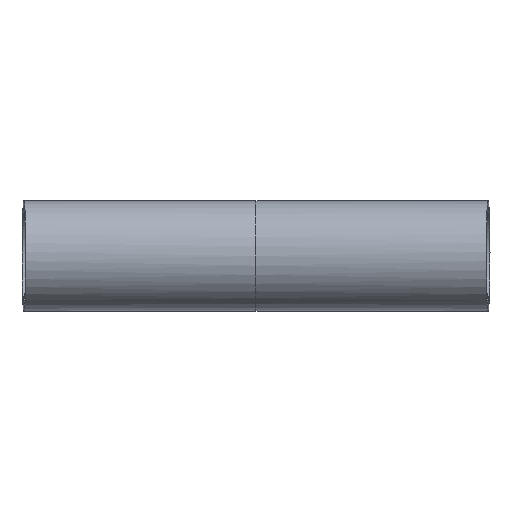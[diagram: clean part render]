
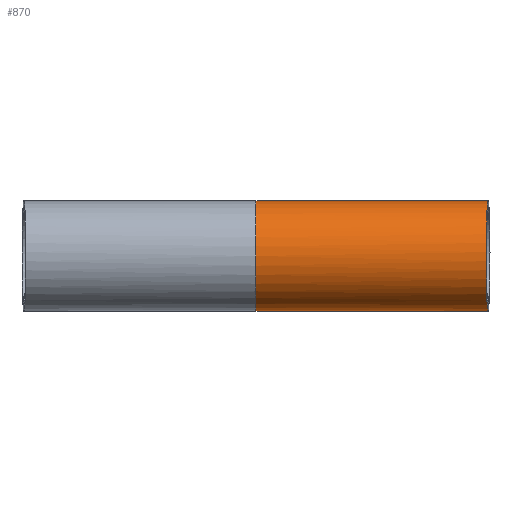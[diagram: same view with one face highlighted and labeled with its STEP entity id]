
A CAD part, front view. The second image highlights one B-rep face of the part: STEP entity #870.
In plain terms, the highlighted free-form (B-spline) face has degree [3, 1] with [7, 2] control points.
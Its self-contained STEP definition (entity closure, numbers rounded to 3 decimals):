
#12 = CARTESIAN_POINT ( 'NONE',  ( 53.053, -11.946, 7.753 ) ) ;
#16 = CARTESIAN_POINT ( 'NONE',  ( 52.965, -14.468, 1.66 ) ) ;
#24 = ORIENTED_EDGE ( 'NONE', *, *, #957, .F. ) ;
#25 = CARTESIAN_POINT ( 'NONE',  ( 52.962, -14.549, 0.836 ) ) ;
#32 = CARTESIAN_POINT ( 'NONE',  ( 53.028, -12.645, -6.705 ) ) ;
#43 = VECTOR ( 'NONE', #683, 1000. ) ;
#44 = FACE_OUTER_BOUND ( 'NONE', #688, .T. ) ;
#81 = VERTEX_POINT ( 'NONE', #456 ) ;
#97 = CARTESIAN_POINT ( 'NONE',  ( 53.052, -11.957, -7.738 ) ) ;
#98 = ORIENTED_EDGE ( 'NONE', *, *, #1086, .F. ) ;
#107 = CARTESIAN_POINT ( 'NONE',  ( 53.021, -12.858, -6.349 ) ) ;
#117 = CARTESIAN_POINT ( 'NONE',  ( 53.249, -6.338, 11.891 ) ) ;
#119 = CARTESIAN_POINT ( 'NONE',  ( 0., 0., 12.7 ) ) ;
#124 = CARTESIAN_POINT ( 'NONE',  ( 53.001, -13.43, -5.233 ) ) ;
#128 = CARTESIAN_POINT ( 'NONE',  ( 53.007, -13.251, -5.614 ) ) ;
#135 =( BOUNDED_SURFACE ( )  B_SPLINE_SURFACE ( 3, 1, ( 
 ( #221, #225 ),
 ( #247, #368 ),
 ( #1134, #500 ),
 ( #1287, #1181 ),
 ( #1076, #1052 ),
 ( #333, #216 ),
 ( #1062, #932 ) ),
 .UNSPECIFIED., .F., .F., .F. ) 
 B_SPLINE_SURFACE_WITH_KNOTS ( ( 4, 3, 4 ),
 ( 2, 2 ),
 ( 0., 0.5, 1. ),
 ( 0., 1. ),
 .UNSPECIFIED. ) 
 GEOMETRIC_REPRESENTATION_ITEM ( )  RATIONAL_B_SPLINE_SURFACE ( (
 ( 1., 1.),
 ( 0.805, 0.805),
 ( 0.805, 0.805),
 ( 1., 1.),
 ( 0.805, 0.805),
 ( 0.805, 0.805),
 ( 1., 1.) ) ) 
 REPRESENTATION_ITEM ( '' )  SURFACE ( )  );
#142 = CARTESIAN_POINT ( 'NONE',  ( 52.963, -14.53, -0.821 ) ) ;
#178 = B_SPLINE_CURVE_WITH_KNOTS ( 'NONE', 3,
 ( #1487, #463, #1372, #1380, #1413, #1198, #117, #814, #830, #612, #622, #701, #711, #716, #12, #379, #355, #262, #937, #923, #920, #903, #16, #25, #943, #142, #556, #796, #1036, #913, #124, #128, #107, #32, #97, #448, #459, #385, #1503, #586, #188, #761, #766, #872, #880, #889, #1348 ),
 .UNSPECIFIED., .F., .F.,
 ( 4, 2, 2, 2, 2, 2, 2, 2, 2, 1, 2, 2, 2, 2, 2, 2, 2, 2, 2, 2, 2, 2, 2, 4 ),
 ( 0., 0.002, 0.004, 0.005, 0.007, 0.009, 0.01, 0.012, 0.014, 0.015, 0.016, 0.017, 0.02, 0.021, 0.022, 0.025, 0.026, 0.027, 0.03, 0.032, 0.033, 0.035, 0.037, 0.04 ),
 .UNSPECIFIED. ) ;
#184 = EDGE_CURVE ( 'NONE', #264, #859, #405, .T. ) ;
#188 = CARTESIAN_POINT ( 'NONE',  ( 53.208, -7.491, -11.39 ) ) ;
#216 = CARTESIAN_POINT ( 'NONE',  ( 0., -7.439, -12.7 ) ) ;
#221 = CARTESIAN_POINT ( 'NONE',  ( 53.725, -1.876, 12.7 ) ) ;
#225 = CARTESIAN_POINT ( 'NONE',  ( 0., 0., 12.7 ) ) ;
#237 = DIRECTION ( 'NONE',  ( 0.999, -0.035, 0. ) ) ;
#247 = CARTESIAN_POINT ( 'NONE',  ( 53.725, -9.316, 12.7 ) ) ;
#252 = CARTESIAN_POINT ( 'NONE',  ( 26.863, -0.938, -12.7 ) ) ;
#262 = CARTESIAN_POINT ( 'NONE',  ( 53.007, -13.248, 5.619 ) ) ;
#264 = VERTEX_POINT ( 'NONE', #119 ) ;
#316 = ORIENTED_EDGE ( 'NONE', *, *, #1354, .F. ) ;
#333 = CARTESIAN_POINT ( 'NONE',  ( 53.725, -9.316, -12.7 ) ) ;
#345 = CARTESIAN_POINT ( 'NONE',  ( 26.863, -0.938, 12.7 ) ) ;
#355 = CARTESIAN_POINT ( 'NONE',  ( 53.021, -12.857, 6.352 ) ) ;
#368 = CARTESIAN_POINT ( 'NONE',  ( 0., -7.439, 12.7 ) ) ;
#379 = CARTESIAN_POINT ( 'NONE',  ( 53.028, -12.641, 6.712 ) ) ;
#385 = CARTESIAN_POINT ( 'NONE',  ( 53.134, -9.609, -10.092 ) ) ;
#405 = LINE ( 'NONE', #345, #457 ) ;
#448 = CARTESIAN_POINT ( 'NONE',  ( 53.071, -11.434, -8.379 ) ) ;
#456 = CARTESIAN_POINT ( 'NONE',  ( 53.405, -1.865, -12.7 ) ) ;
#457 = VECTOR ( 'NONE', #237, 1000. ) ;
#459 = CARTESIAN_POINT ( 'NONE',  ( 53.112, -10.251, -9.565 ) ) ;
#463 = CARTESIAN_POINT ( 'NONE',  ( 53.376, -2.703, 12.7 ) ) ;
#500 = CARTESIAN_POINT ( 'NONE',  ( 0., -12.7, 7.439 ) ) ;
#556 = CARTESIAN_POINT ( 'NONE',  ( 52.965, -14.449, -1.653 ) ) ;
#586 = CARTESIAN_POINT ( 'NONE',  ( 53.183, -8.224, -10.997 ) ) ;
#595 = AXIS2_PLACEMENT_3D ( 'NONE', #747, #853, #1114 ) ;
#612 = CARTESIAN_POINT ( 'NONE',  ( 53.147, -9.253, 10.331 ) ) ;
#622 = CARTESIAN_POINT ( 'NONE',  ( 53.135, -9.589, 10.082 ) ) ;
#683 = DIRECTION ( 'NONE',  ( -0.999, 0.035, 0. ) ) ;
#688 = EDGE_LOOP ( 'NONE', ( #784, #316, #24, #98 ) ) ;
#701 = CARTESIAN_POINT ( 'NONE',  ( 53.112, -10.236, 9.551 ) ) ;
#711 = CARTESIAN_POINT ( 'NONE',  ( 53.102, -10.543, 9.272 ) ) ;
#716 = CARTESIAN_POINT ( 'NONE',  ( 53.071, -11.421, 8.393 ) ) ;
#747 = CARTESIAN_POINT ( 'NONE',  ( 0., 0., 0. ) ) ;
#761 = CARTESIAN_POINT ( 'NONE',  ( 53.222, -7.111, -11.571 ) ) ;
#766 = CARTESIAN_POINT ( 'NONE',  ( 53.262, -5.958, -12.05 ) ) ;
#784 = ORIENTED_EDGE ( 'NONE', *, *, #184, .F. ) ;
#796 = CARTESIAN_POINT ( 'NONE',  ( 52.967, -14.387, -2.067 ) ) ;
#814 = CARTESIAN_POINT ( 'NONE',  ( 53.208, -7.491, 11.413 ) ) ;
#830 = CARTESIAN_POINT ( 'NONE',  ( 53.183, -8.219, 11.023 ) ) ;
#853 = DIRECTION ( 'NONE',  ( -1., 0., 0. ) ) ;
#859 = VERTEX_POINT ( 'NONE', #1318 ) ;
#870 = ADVANCED_FACE ( 'NONE', ( #44 ), #135, .F. ) ;
#872 = CARTESIAN_POINT ( 'NONE',  ( 53.289, -5.167, -12.29 ) ) ;
#880 = CARTESIAN_POINT ( 'NONE',  ( 53.346, -3.542, -12.616 ) ) ;
#889 = CARTESIAN_POINT ( 'NONE',  ( 53.376, -2.703, -12.7 ) ) ;
#903 = CARTESIAN_POINT ( 'NONE',  ( 52.973, -14.224, 2.889 ) ) ;
#913 = CARTESIAN_POINT ( 'NONE',  ( 52.984, -13.906, -4.08 ) ) ;
#920 = CARTESIAN_POINT ( 'NONE',  ( 52.977, -14.122, 3.296 ) ) ;
#923 = CARTESIAN_POINT ( 'NONE',  ( 52.985, -13.88, 4.091 ) ) ;
#932 = CARTESIAN_POINT ( 'NONE',  ( 0., 0., -12.7 ) ) ;
#937 = CARTESIAN_POINT ( 'NONE',  ( 52.995, -13.602, 4.87 ) ) ;
#943 = CARTESIAN_POINT ( 'NONE',  ( 52.962, -14.55, -0.405 ) ) ;
#957 = EDGE_CURVE ( 'NONE', #81, #987, #1197, .T. ) ;
#987 = VERTEX_POINT ( 'NONE', #1047 ) ;
#1036 = CARTESIAN_POINT ( 'NONE',  ( 52.976, -14.145, -3.289 ) ) ;
#1039 = CIRCLE ( 'NONE', #595, 12.7 ) ;
#1047 = CARTESIAN_POINT ( 'NONE',  ( 0., 0., -12.7 ) ) ;
#1052 = CARTESIAN_POINT ( 'NONE',  ( 0., -12.7, -7.439 ) ) ;
#1062 = CARTESIAN_POINT ( 'NONE',  ( 53.725, -1.876, -12.7 ) ) ;
#1076 = CARTESIAN_POINT ( 'NONE',  ( 53.725, -14.576, -7.439 ) ) ;
#1086 = EDGE_CURVE ( 'NONE', #859, #81, #178, .T. ) ;
#1114 = DIRECTION ( 'NONE',  ( 0., 0., 1. ) ) ;
#1134 = CARTESIAN_POINT ( 'NONE',  ( 53.725, -14.576, 7.439 ) ) ;
#1181 = CARTESIAN_POINT ( 'NONE',  ( 0., -12.7, 0. ) ) ;
#1197 = LINE ( 'NONE', #252, #43 ) ;
#1198 = CARTESIAN_POINT ( 'NONE',  ( 53.262, -5.942, 12.033 ) ) ;
#1287 = CARTESIAN_POINT ( 'NONE',  ( 53.725, -14.576, 0. ) ) ;
#1318 = CARTESIAN_POINT ( 'NONE',  ( 53.405, -1.865, 12.7 ) ) ;
#1348 = CARTESIAN_POINT ( 'NONE',  ( 53.405, -1.865, -12.7 ) ) ;
#1354 = EDGE_CURVE ( 'NONE', #987, #264, #1039, .T. ) ;
#1372 = CARTESIAN_POINT ( 'NONE',  ( 53.347, -3.527, 12.618 ) ) ;
#1380 = CARTESIAN_POINT ( 'NONE',  ( 53.304, -4.743, 12.376 ) ) ;
#1413 = CARTESIAN_POINT ( 'NONE',  ( 53.29, -5.145, 12.275 ) ) ;
#1487 = CARTESIAN_POINT ( 'NONE',  ( 53.405, -1.865, 12.7 ) ) ;
#1503 = CARTESIAN_POINT ( 'NONE',  ( 53.17, -8.579, -10.783 ) ) ;
